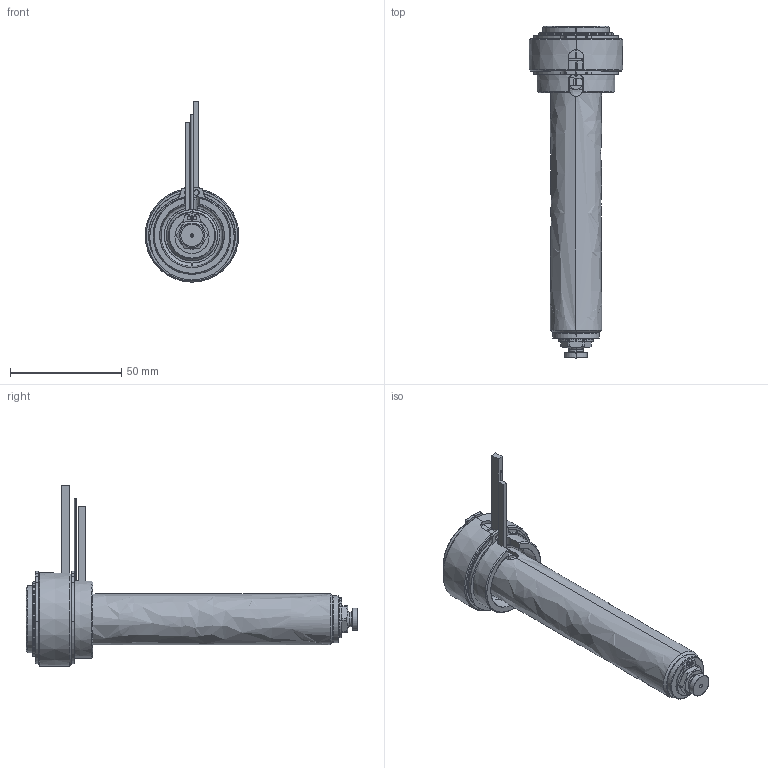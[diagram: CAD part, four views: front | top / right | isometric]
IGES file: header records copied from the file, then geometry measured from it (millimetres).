
Start section: SolidWorks IGES file using analytic representation for surfaces
Global section: file name: C:\Users\luca.EMPAD\Desktop\TEM\UGBE3503-M-A-3 [Ød-1.0 P-0 ØC-7.0].IGS; native system: SolidWorks 2012; preprocessor: SolidWorks 2012; author: luca; date: 120330.140451; units: millimetre
Bounding box: 42 x 149 x 80.9 mm (x, y, z)
Surface area: 37866.4 mm2 (no closed solid volume)
Topology: 0 solids, 0 shells, 189 faces, 3496 edges, 3496 vertices
Faces by surface type: revolution 121, bspline 68
